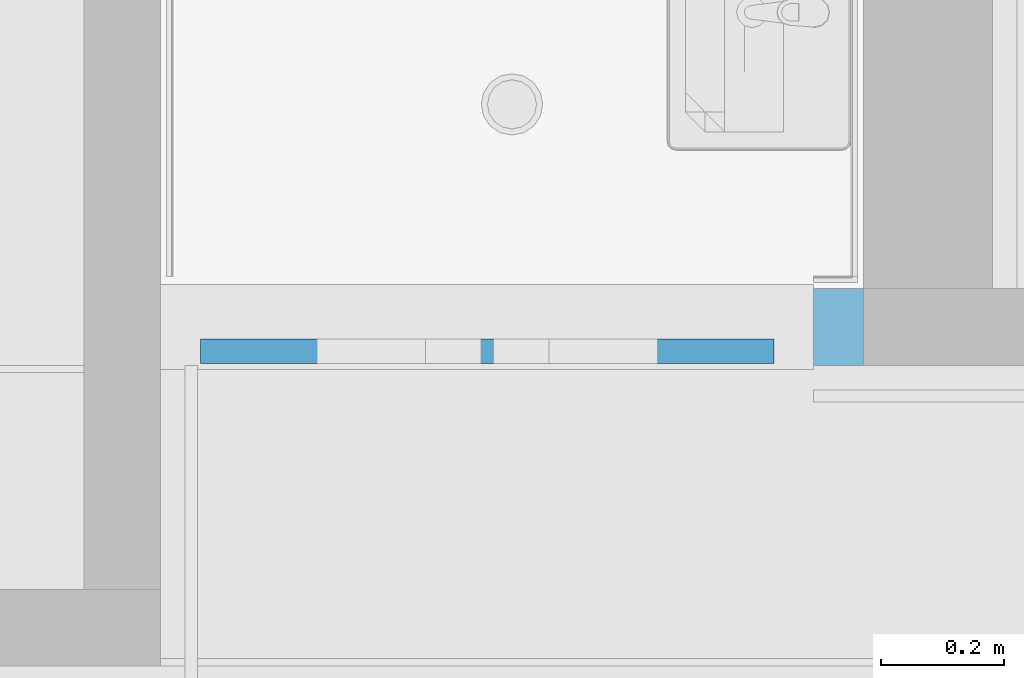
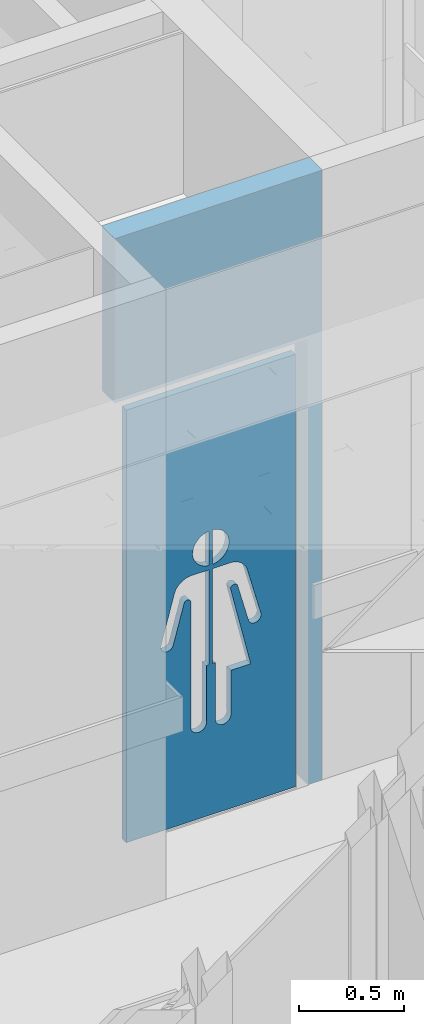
# One storey, part 8 of 347: 1 building element part, 1 opening, 1 element without a shape of its own, plus 1 element that does not belong to this part.
"""IFC2X3 building model written with IfcOpenShell, lengths in millimetres."""

from ifc_helpers import new_model, entity, si_unit, converted_unit, derived_unit, money_unit, direction, frame, origin_with_axes, place, context, subcontext, project, spatial, faceted_brep, source, transform, mapped, material, type_object, element, fill, aggregate, save


model = new_model("IFC2X3")

# Units and contexts
model_context = context("Model", 3, precision=0.01, world=origin_with_axes(), true_north=direction((0.0, 1.0)))
plan_context = context("Plan", 3, precision=0.01, world=origin_with_axes(), true_north=direction((0.0, 1.0)))
body_context = subcontext(model_context, "Body", "Model", "MODEL_VIEW")
ifc_project = project(units=[si_unit("LENGTHUNIT", "METRE", prefix="MILLI"), si_unit("AREAUNIT", "SQUARE_METRE"), si_unit("VOLUMEUNIT", "CUBIC_METRE"), converted_unit("PLANEANGLEUNIT", "DEGREE", entity("IfcPlaneAngleMeasure", 0.0174532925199), si_unit("PLANEANGLEUNIT", "RADIAN"), dimensions=[0, 0, 0, 0, 0, 0, 0]), money_unit("EUR"), converted_unit("TIMEUNIT", "Year", entity("IfcTimeMeasure", 31556926.0), si_unit("TIMEUNIT", "SECOND"), dimensions=[0, 0, 1, 0, 0, 0, 0]), si_unit("MASSUNIT", "GRAM", prefix="KILO"), si_unit("THERMODYNAMICTEMPERATUREUNIT", "DEGREE_CELSIUS"), si_unit("LUMINOUSINTENSITYUNIT", "LUMEN"), si_unit("ENERGYUNIT", "JOULE", prefix="MEGA"), derived_unit("THERMALCONDUCTANCEUNIT", [(si_unit("POWERUNIT", "WATT"), 1), (si_unit("LENGTHUNIT", "METRE"), -1), (si_unit("THERMODYNAMICTEMPERATUREUNIT", "KELVIN"), -1)]), derived_unit("SPECIFICHEATCAPACITYUNIT", [(si_unit("ENERGYUNIT", "JOULE"), 1), (si_unit("MASSUNIT", "GRAM", prefix="KILO"), -1), (si_unit("THERMODYNAMICTEMPERATUREUNIT", "KELVIN"), -1)]), derived_unit("MASSDENSITYUNIT", [(si_unit("MASSUNIT", "GRAM", prefix="KILO"), 1), (si_unit("VOLUMEUNIT", "CUBIC_METRE"), -1)])], contexts=[model_context, plan_context])

# Site, building, storey
site_placement = place(None, origin_with_axes())
site = spatial("IfcSite", under=ifc_project, at=site_placement, Name="Site", CompositionType="ELEMENT")
building_placement = place(site_placement, origin_with_axes())
building = spatial("IfcBuilding", under=site, at=building_placement, Name="Naam gebouw", CompositionType="ELEMENT")
storey_placement = place(building_placement, origin_with_axes())
storey = spatial("IfcBuildingStorey", under=building, at=storey_placement, Name="begane grond", CompositionType="ELEMENT", Elevation=0.0)

# Wall, opening, door, building element part
ifc_material_1 = material(Name="ALG - LICHTE SCHEIDINGSWAND")
wall_type = type_object("IfcWallType", Name="ALG LSW 125 125", PredefinedType="NOTDEFINED")
wall_placement = place(storey_placement, frame((15795.0, 14890.0, 0.0), z_axis=(0.0, 0.0, 1.0), x_axis=(-1.0, 0.0, 0.0)))
wall = element("IfcWall", 1, at=wall_placement, inside=storey, type_object=wall_type, material=ifc_material_1, Name="22_GF 125 ECO DGS/2.75.3A", context=body_context, shape_type="Brep", body=[
    faceted_brep([(80.9999999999, -125.0, 2600.0), (1145.0, -125.0, 2600.0), (1145.0, -125.0, 3560.0), (0.0, -125.0, 3560.0), (0.0, -125.0, 0.0), (80.9999999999, -125.0, 0.0), (80.9999999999, 0.0, 2600.0), (1145.0, 0.0, 2600.0), (1145.0, 0.0, 3560.0), (0.0, 0.0, 3560.0), (0.0, 0.0, 0.0), (80.9999999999, 0.0, 0.0)], [[[0, 1, 2, 3, 4, 5]], [[1, 0, 6, 7]], [[1, 7, 8, 2]], [[2, 8, 9, 3]], [[3, 9, 10, 4]], [[11, 5, 4, 10]], [[0, 5, 11, 6]], [[6, 11, 10, 9, 8, 7]]]),
])
opening_placement = place(wall_placement, frame((613.0, 0.0, 0.0), z_axis=(0.0, 0.0, 1.0), x_axis=(1.0, 0.0, 0.0)))
opening = element("IfcOpeningElement", 2, at=opening_placement, cuts=wall, Name="32_02.05", context=body_context, shape_type="Brep", body=[
    faceted_brep([(532.0, -125.0, 2600.0), (532.0, -125.0, 0.0), (532.0, 257.0, 0.0), (532.0, 257.0, 2600.0), (-532.0, -125.0, 2600.0), (-532.0, -125.0, 0.0), (-532.0, 257.0, 0.0), (-532.0, 257.0, 2600.0)], [[[0, 1, 2, 3]], [[0, 4, 5, 1]], [[1, 5, 6, 2]], [[3, 2, 6, 7]], [[4, 0, 3, 7]], [[5, 4, 7, 6]]]),
])
door_style = type_object("IfcDoorStyle", Name="D1 25", ConstructionType="NOTDEFINED", OperationType="SINGLE_SWING_RIGHT", ParameterTakesPrecedence=False, Sizeable=False)
door_placement = place(opening_placement, frame((-532.0, 0.0, 0.0), z_axis=(0.0, 0.0, 1.0), x_axis=(1.0, 0.0, 0.0)))
door = element("IfcDoor", 3, at=door_placement, inside=storey, type_object=door_style, Name="32_02.05", ObjectType="DOOR", OverallHeight=2600.0, OverallWidth=1064.0)
fill(opening, door)
ifc_material_2 = material(Name="Hout C")
shared_shape = source(origin_with_axes(), body_context, "Body", "Brep", [
    faceted_brep([(467.0, -10.0, 2535.0), (467.0, -50.0, 2535.0), (467.0, -50.0, 10.0), (467.0, -10.0, 10.0), (-467.0, -10.0, 2535.0), (-467.0, -50.0, 2535.0), (-467.0, -50.0, 10.0), (-10.0430200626, -50.0, 890.229090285), (-25.1075218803, -50.0, 890.229090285), (-25.1075218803, -50.0, 563.286854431), (-24.6932816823, -50.0, 559.546364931), (-25.1742831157, -50.0, 552.034934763), (-26.9501513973, -50.0, 544.721284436), (-29.9669276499, -50.0, 537.827635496), (-34.1329486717, -50.0, 531.563447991), (-39.3216320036, -50.0, 526.119056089), (-45.3753221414, -50.0, 521.659884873), (-52.1100807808, -50.0, 518.321424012), (-59.3212756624, -50.0, 516.205110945), (-66.7897983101, -50.0, 515.375248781), (-74.2887214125, -50.0, 515.857052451), (-81.5901940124, -50.0, 517.635882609), (-88.4723645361, -50.0, 520.657690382), (-94.7261217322, -50.0, 524.830659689), (-100.161448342, -50.0, 530.027996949), (-104.613194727, -50.0, 536.091783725), (-107.946096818, -50.0, 542.8377749), (-110.058886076, -50.0, 550.06099695), (-110.887366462, -50.0, 557.54197595), (-110.473126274, -50.0, 563.286854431), (-110.473126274, -50.0, 814.780876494), (-219.866038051, -50.0, 814.780876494), (-108.013455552, -50.0, 1292.61952191), (-108.785274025, -50.0, 1296.47224326), (-110.199691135, -50.0, 1299.82482097), (-112.173819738, -50.0, 1302.8804449), (-114.647676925, -50.0, 1305.54627145), (-117.546095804, -50.0, 1307.74130085), (-120.781009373, -50.0, 1309.39883823), (-124.254126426, -50.0, 1310.46852015), (-127.859918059, -50.0, 1310.91784487), (-131.488824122, -50.0, 1310.73315989), (-135.030582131, -50.0, 1309.92007677), (-138.377577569, -50.0, 1308.50330061), (-141.428113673, -50.0, 1306.52587948), (-144.089501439, -50.0, 1304.04789628), (-146.280875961, -50.0, 1301.14464328), (-147.935653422, -50.0, 1297.90433437), (-149.003554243, -50.0, 1294.42542469), (-149.227842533, -50.0, 1292.61952191), (-207.923578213, -50.0, 1073.19870027), (-208.719139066, -50.0, 1070.22315824), (-211.317762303, -50.0, 1064.63924071), (-214.844929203, -50.0, 1059.59215425), (-219.193468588, -50.0, 1055.235252), (-224.231252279, -50.0, 1051.70091623), (-229.805209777, -50.0, 1049.09653598), (-235.745979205, -50.0, 1047.50124399), (-241.873053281, -50.0, 1046.96351241), (-248.000263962, -50.0, 1047.49967995), (-253.941439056, -50.0, 1049.09345542), (-259.516058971, -50.0, 1051.69641276), (-264.554741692, -50.0, 1055.22946244), (-268.904389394, -50.0, 1059.58525451), (-272.432840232, -50.0, 1064.63144045), (-275.032884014, -50.0, 1070.21469446), (-276.625519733, -50.0, 1076.16537218), (-277.162355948, -50.0, 1082.30266527), (-276.62708117, -50.0, 1088.44009521), (-275.831520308, -50.0, 1091.41563724), (-201.58891637, -50.0, 1368.954906), (-199.31480372, -50.0, 1377.45616444), (-191.888136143, -50.0, 1393.40926659), (-181.808681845, -50.0, 1407.82822709), (-169.382699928, -50.0, 1420.27493311), (-154.98774758, -50.0, 1430.37119778), (-139.061208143, -50.0, 1437.81025123), (-122.087001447, -50.0, 1442.36606156), (-104.580882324, -50.0, 1443.51593625), (-10.0430200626, -50.0, 1443.51593625), (-10.0430200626, -50.0, 1669.35630499), (-10.0430200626, -50.0, 1469.16959144), (-18.7854730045, -50.0, 1470.04970729), (-35.6995917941, -50.0, 1474.82448312), (-51.5289965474, -50.0, 1482.46872393), (-65.7927188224, -50.0, 1492.75016333), (-78.0573626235, -50.0, 1505.35640498), (-87.9502729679, -50.0, 1519.90441461), (-95.1708587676, -50.0, 1535.9521583), (-99.4997261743, -50.0, 1553.01203348), (-100.430107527, -50.0, 1569.26294821), (-100.430107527, -50.0, 1578.06409863), (-97.3785895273, -50.0, 1595.39898096), (-91.368272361, -50.0, 1611.93973315), (-82.5817764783, -50.0, 1627.18377283), (-71.2860751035, -50.0, 1640.66791757), (-57.8243824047, -50.0, 1651.98245845), (-42.6057251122, -50.0, 1660.78360886), (-26.0925144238, -50.0, 1666.80395031), (10.0430200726, -50.0, 1669.35630499), (18.7854730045, -50.0, 1668.47618914), (35.6995917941, -50.0, 1663.7014133), (51.5289965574, -50.0, 1656.05717249), (65.7927188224, -50.0, 1645.77573309), (78.0573626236, -50.0, 1633.16949145), (87.9502729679, -50.0, 1618.62148182), (95.1708587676, -50.0, 1602.57373813), (99.4997261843, -50.0, 1585.51386294), (100.430107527, -50.0, 1569.26294821), (100.430107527, -50.0, 1560.4617978), (97.3785895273, -50.0, 1543.12691547), (91.368272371, -50.0, 1526.58616327), (82.5817764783, -50.0, 1511.34212359), (71.2860751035, -50.0, 1497.85797885), (57.8243824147, -50.0, 1486.54343798), (42.6057251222, -50.0, 1477.74228756), (26.0925144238, -50.0, 1471.72194611), (10.0430200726, -50.0, 1469.16959144), (276.62552127, -50.0, 1088.44895872), (277.162357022, -50.0, 1082.31166558), (276.627081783, -50.0, 1076.17423568), (275.035959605, -50.0, 1070.22315174), (272.437335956, -50.0, 1064.63923441), (268.910168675, -50.0, 1059.59214821), (264.561628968, -50.0, 1055.23524628), (259.523845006, -50.0, 1051.70091091), (253.949887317, -50.0, 1049.09653107), (248.009117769, -50.0, 1047.50123953), (241.882043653, -50.0, 1046.96350842), (235.754833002, -50.0, 1047.49967641), (229.813658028, -50.0, 1049.09345233), (224.239038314, -50.0, 1051.6964101), (219.200355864, -50.0, 1055.22946015), (214.850708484, -50.0, 1059.58525256), (211.322258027, -50.0, 1064.63143877), (208.722214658, -50.0, 1070.21469297), (207.923578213, -50.0, 1073.19870026), (149.011836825, -50.0, 1292.61952191), (148.349375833, -50.0, 1295.95494878), (147.047948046, -50.0, 1299.10211348), (145.220702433, -50.0, 1301.97509819), (142.923158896, -50.0, 1304.48660874), (140.225127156, -50.0, 1306.56033414), (137.208585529, -50.0, 1308.13326528), (133.965190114, -50.0, 1309.15760948), (130.593489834, -50.0, 1309.60224253), (127.195932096, -50.0, 1309.45365449), (123.875749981, -50.0, 1308.71636013), (120.733825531, -50.0, 1307.41276178), (117.865624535, -50.0, 1305.58246859), (115.358295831, -50.0, 1303.2810931), (113.288023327, -50.0, 1300.57856146), (111.717711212, -50.0, 1297.5569887), (110.695072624, -50.0, 1294.3081838), (110.473126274, -50.0, 1292.61952191), (110.473126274, -50.0, 563.286854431), (110.887366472, -50.0, 559.546364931), (110.406365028, -50.0, 552.034934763), (108.630496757, -50.0, 544.721284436), (105.613720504, -50.0, 537.827635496), (101.447699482, -50.0, 531.563447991), (96.2590161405, -50.0, 526.119056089), (90.2053260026, -50.0, 521.659884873), (83.4705673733, -50.0, 518.321424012), (76.2593724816, -50.0, 516.205110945), (68.790849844, -50.0, 515.375248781), (61.2919267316, -50.0, 515.857052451), (53.9904541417, -50.0, 517.635882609), (47.1082836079, -50.0, 520.657690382), (40.8545264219, -50.0, 524.830659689), (35.4191998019, -50.0, 530.027996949), (30.9674534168, -50.0, 536.091783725), (27.6345513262, -50.0, 542.8377749), (25.5217620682, -50.0, 550.06099695), (24.6932816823, -50.0, 557.54197595), (25.1075218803, -50.0, 563.286854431), (25.1075218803, -50.0, 890.229090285), (10.0430200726, -50.0, 890.229090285), (10.0430200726, -50.0, 1443.51593625), (104.580882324, -50.0, 1443.51593625), (113.367378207, -50.0, 1443.51593625), (130.673396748, -50.0, 1440.4593288), (147.186607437, -50.0, 1434.43898735), (162.405264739, -50.0, 1425.63783693), (175.866957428, -50.0, 1414.32329606), (187.162658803, -50.0, 1400.83915132), (195.949154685, -50.0, 1385.59511164), (201.58891637, -50.0, 1368.954906), (-467.0, -10.0, 10.0), (-10.0430200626, -10.0, 890.229090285), (-10.0430200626, -10.0, 1443.51593625), (-104.580882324, -10.0, 1443.51593625), (-122.087001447, -10.0, 1442.36606156), (-139.061208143, -10.0, 1437.81025123), (-154.98774758, -10.0, 1430.37119778), (-169.382699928, -10.0, 1420.27493311), (-181.808681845, -10.0, 1407.82822709), (-191.888136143, -10.0, 1393.40926659), (-199.31480372, -10.0, 1377.45616444), (-201.58891637, -10.0, 1368.954906), (-275.831520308, -10.0, 1091.41563724), (-276.62708117, -10.0, 1088.44009521), (-277.162355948, -10.0, 1082.30266527), (-276.625519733, -10.0, 1076.16537218), (-275.032884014, -10.0, 1070.21469446), (-272.432840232, -10.0, 1064.63144045), (-268.904389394, -10.0, 1059.58525451), (-264.554741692, -10.0, 1055.22946244), (-259.516058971, -10.0, 1051.69641276), (-253.941439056, -10.0, 1049.09345542), (-248.000263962, -10.0, 1047.49967995), (-241.873053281, -10.0, 1046.96351241), (-235.745979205, -10.0, 1047.50124399), (-229.805209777, -10.0, 1049.09653598), (-224.231252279, -10.0, 1051.70091623), (-219.193468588, -10.0, 1055.235252), (-214.844929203, -10.0, 1059.59215425), (-211.317762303, -10.0, 1064.63924071), (-208.719139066, -10.0, 1070.22315824), (-207.923578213, -10.0, 1073.19870027), (-149.227842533, -10.0, 1292.61952191), (-149.003554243, -10.0, 1294.42542469), (-147.935653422, -10.0, 1297.90433437), (-146.280875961, -10.0, 1301.14464328), (-144.089501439, -10.0, 1304.04789628), (-141.428113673, -10.0, 1306.52587948), (-138.377577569, -10.0, 1308.50330061), (-135.030582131, -10.0, 1309.92007677), (-131.488824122, -10.0, 1310.73315989), (-127.859918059, -10.0, 1310.91784487), (-124.254126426, -10.0, 1310.46852015), (-120.781009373, -10.0, 1309.39883823), (-117.546095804, -10.0, 1307.74130085), (-114.647676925, -10.0, 1305.54627145), (-112.173819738, -10.0, 1302.8804449), (-110.199691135, -10.0, 1299.82482097), (-108.785274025, -10.0, 1296.47224326), (-108.013455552, -10.0, 1292.61952191), (-219.866038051, -10.0, 814.780876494), (-110.473126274, -10.0, 814.780876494), (-110.473126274, -10.0, 563.286854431), (-110.887366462, -10.0, 557.54197595), (-110.058886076, -10.0, 550.06099695), (-107.946096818, -10.0, 542.8377749), (-104.613194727, -10.0, 536.091783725), (-100.161448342, -10.0, 530.027996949), (-94.7261217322, -10.0, 524.830659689), (-88.4723645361, -10.0, 520.657690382), (-81.5901940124, -10.0, 517.635882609), (-74.2887214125, -10.0, 515.857052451), (-66.7897983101, -10.0, 515.375248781), (-59.3212756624, -10.0, 516.205110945), (-52.1100807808, -10.0, 518.321424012), (-45.3753221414, -10.0, 521.659884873), (-39.3216320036, -10.0, 526.119056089), (-34.1329486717, -10.0, 531.563447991), (-29.9669276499, -10.0, 537.827635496), (-26.9501513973, -10.0, 544.721284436), (-25.1742831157, -10.0, 552.034934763), (-24.6932816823, -10.0, 559.546364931), (-25.1075218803, -10.0, 563.286854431), (-25.1075218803, -10.0, 890.229090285), (-10.0430200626, -10.0, 1669.35630499), (-26.0925144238, -10.0, 1666.80395031), (-42.6057251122, -10.0, 1660.78360886), (-57.8243824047, -10.0, 1651.98245845), (-71.2860751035, -10.0, 1640.66791757), (-82.5817764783, -10.0, 1627.18377283), (-91.368272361, -10.0, 1611.93973315), (-97.3785895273, -10.0, 1595.39898096), (-100.430107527, -10.0, 1578.06409863), (-100.430107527, -10.0, 1569.26294821), (-99.4997261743, -10.0, 1553.01203348), (-95.1708587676, -10.0, 1535.9521583), (-87.9502729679, -10.0, 1519.90441461), (-78.0573626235, -10.0, 1505.35640498), (-65.7927188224, -10.0, 1492.75016333), (-51.5289965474, -10.0, 1482.46872393), (-35.6995917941, -10.0, 1474.82448312), (-18.7854730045, -10.0, 1470.04970729), (-10.0430200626, -10.0, 1469.16959144), (10.0430200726, -10.0, 1669.35630499), (10.0430200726, -10.0, 1469.16959144), (26.0925144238, -10.0, 1471.72194611), (42.6057251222, -10.0, 1477.74228756), (57.8243824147, -10.0, 1486.54343798), (71.2860751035, -10.0, 1497.85797885), (82.5817764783, -10.0, 1511.34212359), (91.368272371, -10.0, 1526.58616327), (97.3785895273, -10.0, 1543.12691547), (100.430107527, -10.0, 1560.4617978), (100.430107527, -10.0, 1569.26294821), (99.4997261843, -10.0, 1585.51386294), (95.1708587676, -10.0, 1602.57373813), (87.9502729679, -10.0, 1618.62148182), (78.0573626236, -10.0, 1633.16949145), (65.7927188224, -10.0, 1645.77573309), (51.5289965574, -10.0, 1656.05717249), (35.6995917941, -10.0, 1663.7014133), (18.7854730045, -10.0, 1668.47618914), (276.62552127, -10.0, 1088.44895872), (201.58891637, -10.0, 1368.954906), (195.949154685, -10.0, 1385.59511164), (187.162658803, -10.0, 1400.83915132), (175.866957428, -10.0, 1414.32329606), (162.405264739, -10.0, 1425.63783693), (147.186607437, -10.0, 1434.43898735), (130.673396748, -10.0, 1440.4593288), (113.367378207, -10.0, 1443.51593625), (104.580882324, -10.0, 1443.51593625), (10.0430200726, -10.0, 1443.51593625), (10.0430200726, -10.0, 890.229090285), (25.1075218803, -10.0, 890.229090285), (25.1075218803, -10.0, 563.286854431), (24.6932816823, -10.0, 557.54197595), (25.5217620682, -10.0, 550.06099695), (27.6345513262, -10.0, 542.8377749), (30.9674534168, -10.0, 536.091783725), (35.4191998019, -10.0, 530.027996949), (40.8545264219, -10.0, 524.830659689), (47.1082836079, -10.0, 520.657690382), (53.9904541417, -10.0, 517.635882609), (61.2919267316, -10.0, 515.857052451), (68.790849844, -10.0, 515.375248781), (76.2593724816, -10.0, 516.205110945), (83.4705673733, -10.0, 518.321424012), (90.2053260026, -10.0, 521.659884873), (96.2590161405, -10.0, 526.119056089), (101.447699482, -10.0, 531.563447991), (105.613720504, -10.0, 537.827635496), (108.630496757, -10.0, 544.721284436), (110.406365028, -10.0, 552.034934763), (110.887366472, -10.0, 559.546364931), (110.473126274, -10.0, 563.286854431), (110.473126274, -10.0, 1292.61952191), (110.695072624, -10.0, 1294.3081838), (111.717711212, -10.0, 1297.5569887), (113.288023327, -10.0, 1300.57856146), (115.358295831, -10.0, 1303.2810931), (117.865624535, -10.0, 1305.58246859), (120.733825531, -10.0, 1307.41276178), (123.875749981, -10.0, 1308.71636013), (127.195932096, -10.0, 1309.45365449), (130.593489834, -10.0, 1309.60224253), (133.965190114, -10.0, 1309.15760948), (137.208585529, -10.0, 1308.13326528), (140.225127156, -10.0, 1306.56033414), (142.923158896, -10.0, 1304.48660874), (145.220702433, -10.0, 1301.97509819), (147.047948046, -10.0, 1299.10211348), (148.349375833, -10.0, 1295.95494878), (149.011836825, -10.0, 1292.61952191), (207.923578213, -10.0, 1073.19870026), (208.722214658, -10.0, 1070.21469297), (211.322258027, -10.0, 1064.63143877), (214.850708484, -10.0, 1059.58525256), (219.200355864, -10.0, 1055.22946015), (224.239038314, -10.0, 1051.6964101), (229.813658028, -10.0, 1049.09345233), (235.754833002, -10.0, 1047.49967641), (241.882043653, -10.0, 1046.96350842), (248.009117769, -10.0, 1047.50123953), (253.949887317, -10.0, 1049.09653107), (259.523845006, -10.0, 1051.70091091), (264.561628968, -10.0, 1055.23524628), (268.910168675, -10.0, 1059.59214821), (272.437335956, -10.0, 1064.63923441), (275.035959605, -10.0, 1070.22315174), (276.627081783, -10.0, 1076.17423568), (277.162357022, -10.0, 1082.31166558)], [[[0, 1, 2, 3]], [[4, 5, 1, 0]], [[1, 5, 6, 2], [7, 8, 9, 10, 11, 12, 13, 14, 15, 16, 17, 18, 19, 20, 21, 22, 23, 24, 25, 26, 27, 28, 29, 30, 31, 32, 33, 34, 35, 36, 37, 38, 39, 40, 41, 42, 43, 44, 45, 46, 47, 48, 49, 50, 51, 52, 53, 54, 55, 56, 57, 58, 59, 60, 61, 62, 63, 64, 65, 66, 67, 68, 69, 70, 71, 72, 73, 74, 75, 76, 77, 78, 79], [80, 81, 82, 83, 84, 85, 86, 87, 88, 89, 90, 91, 92, 93, 94, 95, 96, 97, 98], [99, 100, 101, 102, 103, 104, 105, 106, 107, 108, 109, 110, 111, 112, 113, 114, 115, 116, 117], [118, 119, 120, 121, 122, 123, 124, 125, 126, 127, 128, 129, 130, 131, 132, 133, 134, 135, 136, 137, 138, 139, 140, 141, 142, 143, 144, 145, 146, 147, 148, 149, 150, 151, 152, 153, 154, 155, 156, 157, 158, 159, 160, 161, 162, 163, 164, 165, 166, 167, 168, 169, 170, 171, 172, 173, 174, 175, 176, 177, 178, 179, 180, 181, 182, 183, 184, 185, 186, 187]], [[3, 2, 6, 188]], [[0, 3, 188, 4], [189, 190, 191, 192, 193, 194, 195, 196, 197, 198, 199, 200, 201, 202, 203, 204, 205, 206, 207, 208, 209, 210, 211, 212, 213, 214, 215, 216, 217, 218, 219, 220, 221, 222, 223, 224, 225, 226, 227, 228, 229, 230, 231, 232, 233, 234, 235, 236, 237, 238, 239, 240, 241, 242, 243, 244, 245, 246, 247, 248, 249, 250, 251, 252, 253, 254, 255, 256, 257, 258, 259, 260, 261], [262, 263, 264, 265, 266, 267, 268, 269, 270, 271, 272, 273, 274, 275, 276, 277, 278, 279, 280], [281, 282, 283, 284, 285, 286, 287, 288, 289, 290, 291, 292, 293, 294, 295, 296, 297, 298, 299], [300, 301, 302, 303, 304, 305, 306, 307, 308, 309, 310, 311, 312, 313, 314, 315, 316, 317, 318, 319, 320, 321, 322, 323, 324, 325, 326, 327, 328, 329, 330, 331, 332, 333, 334, 335, 336, 337, 338, 339, 340, 341, 342, 343, 344, 345, 346, 347, 348, 349, 350, 351, 352, 353, 354, 355, 356, 357, 358, 359, 360, 361, 362, 363, 364, 365, 366, 367, 368, 369]], [[188, 6, 5, 4]], [[261, 8, 7, 189]], [[260, 9, 8, 261]], [[259, 10, 9, 260]], [[258, 11, 10, 259]], [[257, 12, 11, 258]], [[256, 13, 12, 257]], [[255, 14, 13, 256]], [[254, 15, 14, 255]], [[253, 16, 15, 254]], [[252, 17, 16, 253]], [[251, 18, 17, 252]], [[250, 19, 18, 251]], [[249, 20, 19, 250]], [[248, 21, 20, 249]], [[247, 22, 21, 248]], [[246, 23, 22, 247]], [[245, 24, 23, 246]], [[244, 25, 24, 245]], [[243, 26, 25, 244]], [[242, 27, 26, 243]], [[241, 28, 27, 242]], [[240, 29, 28, 241]], [[239, 30, 29, 240]], [[238, 31, 30, 239]], [[237, 32, 31, 238]], [[236, 33, 32, 237]], [[235, 34, 33, 236]], [[234, 35, 34, 235]], [[233, 36, 35, 234]], [[232, 37, 36, 233]], [[231, 38, 37, 232]], [[230, 39, 38, 231]], [[229, 40, 39, 230]], [[228, 41, 40, 229]], [[227, 42, 41, 228]], [[226, 43, 42, 227]], [[225, 44, 43, 226]], [[224, 45, 44, 225]], [[223, 46, 45, 224]], [[222, 47, 46, 223]], [[221, 48, 47, 222]], [[220, 49, 48, 221]], [[219, 50, 49, 220]], [[218, 51, 50, 219]], [[217, 52, 51, 218]], [[216, 53, 52, 217]], [[215, 54, 53, 216]], [[214, 55, 54, 215]], [[213, 56, 55, 214]], [[212, 57, 56, 213]], [[211, 58, 57, 212]], [[210, 59, 58, 211]], [[209, 60, 59, 210]], [[208, 61, 60, 209]], [[207, 62, 61, 208]], [[206, 63, 62, 207]], [[205, 64, 63, 206]], [[204, 65, 64, 205]], [[203, 66, 65, 204]], [[202, 67, 66, 203]], [[201, 68, 67, 202]], [[200, 69, 68, 201]], [[199, 70, 69, 200]], [[198, 71, 70, 199]], [[197, 72, 71, 198]], [[196, 73, 72, 197]], [[195, 74, 73, 196]], [[194, 75, 74, 195]], [[193, 76, 75, 194]], [[192, 77, 76, 193]], [[191, 78, 77, 192]], [[190, 79, 78, 191]], [[189, 7, 79, 190]], [[280, 81, 80, 262]], [[279, 82, 81, 280]], [[278, 83, 82, 279]], [[277, 84, 83, 278]], [[276, 85, 84, 277]], [[275, 86, 85, 276]], [[274, 87, 86, 275]], [[273, 88, 87, 274]], [[272, 89, 88, 273]], [[271, 90, 89, 272]], [[270, 91, 90, 271]], [[269, 92, 91, 270]], [[268, 93, 92, 269]], [[267, 94, 93, 268]], [[266, 95, 94, 267]], [[265, 96, 95, 266]], [[264, 97, 96, 265]], [[263, 98, 97, 264]], [[262, 80, 98, 263]], [[299, 100, 99, 281]], [[298, 101, 100, 299]], [[297, 102, 101, 298]], [[296, 103, 102, 297]], [[295, 104, 103, 296]], [[294, 105, 104, 295]], [[293, 106, 105, 294]], [[292, 107, 106, 293]], [[291, 108, 107, 292]], [[290, 109, 108, 291]], [[289, 110, 109, 290]], [[288, 111, 110, 289]], [[287, 112, 111, 288]], [[286, 113, 112, 287]], [[285, 114, 113, 286]], [[284, 115, 114, 285]], [[283, 116, 115, 284]], [[282, 117, 116, 283]], [[281, 99, 117, 282]], [[369, 119, 118, 300]], [[368, 120, 119, 369]], [[367, 121, 120, 368]], [[366, 122, 121, 367]], [[365, 123, 122, 366]], [[364, 124, 123, 365]], [[363, 125, 124, 364]], [[362, 126, 125, 363]], [[361, 127, 126, 362]], [[360, 128, 127, 361]], [[359, 129, 128, 360]], [[358, 130, 129, 359]], [[357, 131, 130, 358]], [[356, 132, 131, 357]], [[355, 133, 132, 356]], [[354, 134, 133, 355]], [[353, 135, 134, 354]], [[352, 136, 135, 353]], [[351, 137, 136, 352]], [[350, 138, 137, 351]], [[349, 139, 138, 350]], [[348, 140, 139, 349]], [[347, 141, 140, 348]], [[346, 142, 141, 347]], [[345, 143, 142, 346]], [[344, 144, 143, 345]], [[343, 145, 144, 344]], [[342, 146, 145, 343]], [[341, 147, 146, 342]], [[340, 148, 147, 341]], [[339, 149, 148, 340]], [[338, 150, 149, 339]], [[337, 151, 150, 338]], [[336, 152, 151, 337]], [[335, 153, 152, 336]], [[334, 154, 153, 335]], [[333, 155, 154, 334]], [[332, 156, 155, 333]], [[331, 157, 156, 332]], [[330, 158, 157, 331]], [[329, 159, 158, 330]], [[328, 160, 159, 329]], [[327, 161, 160, 328]], [[326, 162, 161, 327]], [[325, 163, 162, 326]], [[324, 164, 163, 325]], [[323, 165, 164, 324]], [[322, 166, 165, 323]], [[321, 167, 166, 322]], [[320, 168, 167, 321]], [[319, 169, 168, 320]], [[318, 170, 169, 319]], [[317, 171, 170, 318]], [[316, 172, 171, 317]], [[315, 173, 172, 316]], [[314, 174, 173, 315]], [[313, 175, 174, 314]], [[312, 176, 175, 313]], [[311, 177, 176, 312]], [[310, 178, 177, 311]], [[309, 179, 178, 310]], [[308, 180, 179, 309]], [[307, 181, 180, 308]], [[306, 182, 181, 307]], [[305, 183, 182, 306]], [[304, 184, 183, 305]], [[303, 185, 184, 304]], [[302, 186, 185, 303]], [[301, 187, 186, 302]], [[300, 118, 187, 301]]]),
])
building_element_part_placement = place(door_placement, origin_with_axes())
building_element_part = element("IfcBuildingElementPart", 4, at=building_element_part_placement, material=ifc_material_2, Name="Hout C", context=body_context, shape_type="MappedRepresentation", body=[
    mapped(shared_shape, transform((532.0, 7.0, 0.0))),
])
aggregate(door, [building_element_part])

save(model, "model.ifc")
